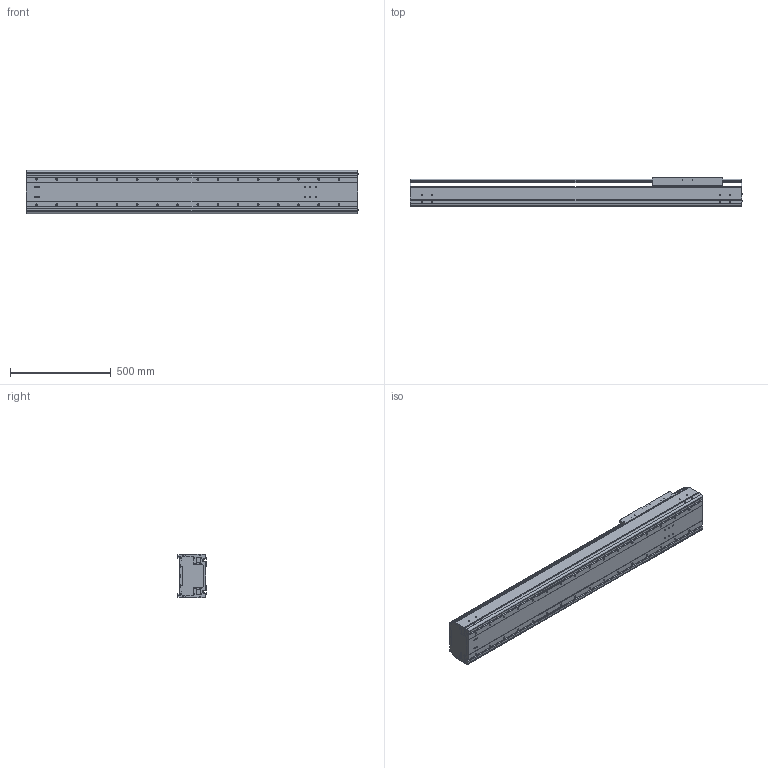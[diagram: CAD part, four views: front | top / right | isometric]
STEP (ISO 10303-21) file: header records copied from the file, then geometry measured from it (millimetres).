
FILE_DESCRIPTION((''),'2;1');
FILE_NAME('BE60G-ST-L_B-B5_IGS_PRT','2017-06-18T',(' '),(''),'PRO/ENGINEER BY PARAMETRIC TECHNOLOGY CORPORATION, 2015030','PRO/ENGINEER BY PARAMETRIC TECHNOLOGY CORPORATION, 2015030','');
FILE_SCHEMA(('CONFIG_CONTROL_DESIGN'));
Length unit declared in the file: millimetre
Products named in the file (1): BE60G-ST-L_B-B5_IGS_PRT
Bounding box: 1647.4 x 140 x 214 mm (x, y, z)
Volume: 13452760.1 mm3; surface area: 3537060.2 mm2
Topology: 2 solids, 156 shells, 1654 faces, 4622 edges, 3033 vertices
Faces by surface type: cylinder 856, plane 626, cone 124, sphere 24, torus 24
Entity records: 55250 total; most frequent: CARTESIAN_POINT 12610, DIRECTION 8960, ORIENTED_EDGE 8392, EDGE_CURVE 4500, AXIS2_PLACEMENT_3D 3353, VERTEX_POINT 3032, VECTOR 2254, LINE 2254
